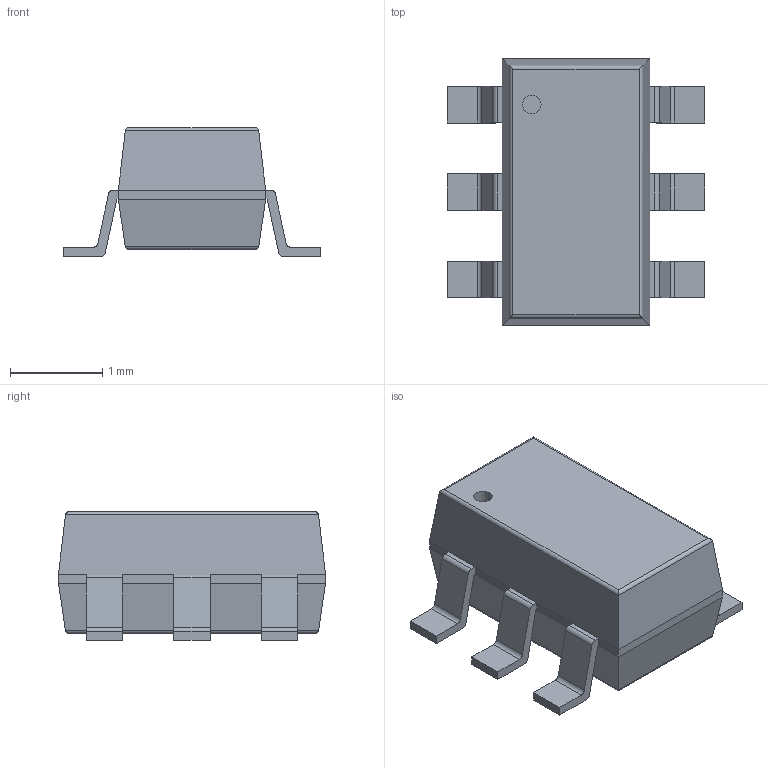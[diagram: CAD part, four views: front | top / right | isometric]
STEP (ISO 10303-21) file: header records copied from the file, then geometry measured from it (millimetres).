
FILE_DESCRIPTION(('FreeCAD Model'),'2;1');
FILE_NAME('/var/www/3D/0T/2305179.1.1.stp','2020-04-11T00:17:40',( 'Author'),(''),'Open CASCADE STEP processor 6.9','FreeCAD','Unknown' );
FILE_SCHEMA(('AUTOMOTIVE_DESIGN { 1 0 10303 214 1 1 1 1 }'));
Length unit declared in the file: millimetre
Products named in the file (3): ASSEMBLY; Body; PinsArrayLR
Assembly tree (2 placements, depth 2):
  ASSEMBLY
    Body
    PinsArrayLR
Bounding box: 2.8 x 2.9 x 1.4 mm (x, y, z)
Volume: 6 mm3; surface area: 26.4 mm2
Topology: 7 solids, 7 shells, 102 faces, 245 edges, 158 vertices
Faces by surface type: plane 75, cylinder 27
Full cylindrical faces by diameter (mm): 0.2 x1
Entity records: 6351 total; most frequent: CARTESIAN_POINT 1246, DIRECTION 945, LINE 623, VECTOR 623, ORIENTED_EDGE 490, PCURVE 490, DEFINITIONAL_REPRESENTATION 490, EDGE_CURVE 245
